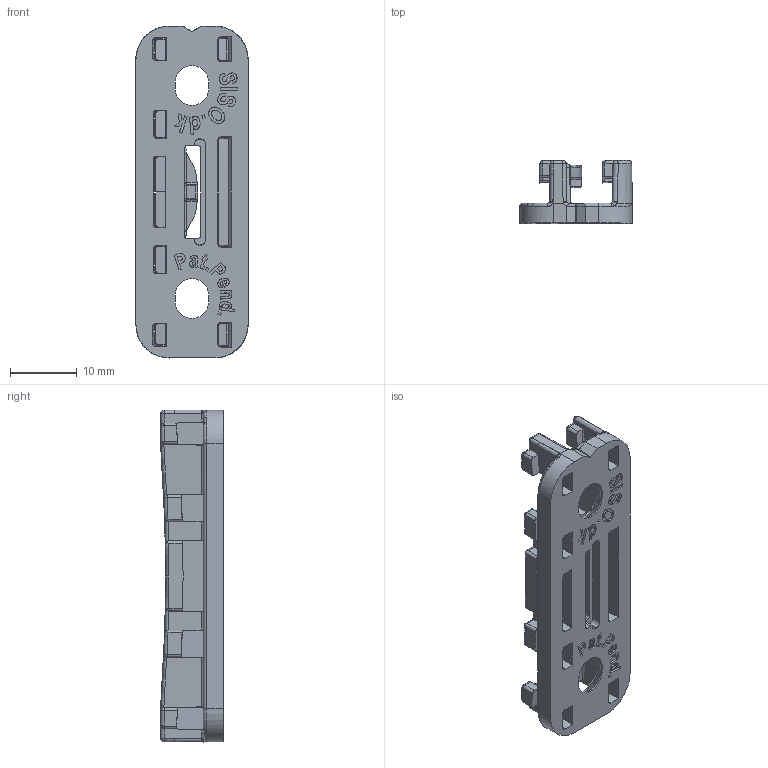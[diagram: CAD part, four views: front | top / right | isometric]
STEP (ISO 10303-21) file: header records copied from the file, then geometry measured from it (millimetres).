
FILE_DESCRIPTION (( 'STEP AP203' ), '1' );
FILE_NAME ('11.01.505 Nigiri_cust.STEP', '2023-03-16T09:33:02', ( '' ), ( '' ), 'SwSTEP 2.0', 'SolidWorks 2022', '' );
FILE_SCHEMA (( 'CONFIG_CONTROL_DESIGN' ));
Length unit declared in the file: millimetre
Products named in the file (1): 11.01.505 Nigiri_cust
Bounding box: 16.88 x 9.4 x 49.89 mm (x, y, z)
Volume: 3221.1 mm3; surface area: 3535.9 mm2
Topology: 1 solids, 1 shells, 615 faces, 1648 edges, 1030 vertices
Faces by surface type: bspline 247, plane 209, cylinder 79, cone 51, torus 16, sphere 13
Entity records: 27929 total; most frequent: CARTESIAN_POINT 15158, ORIENTED_EDGE 3260, DIRECTION 1695, EDGE_CURVE 1630, VERTEX_POINT 1030, B_SPLINE_CURVE_WITH_KNOTS 771, EDGE_LOOP 650, FACE_OUTER_BOUND 615
